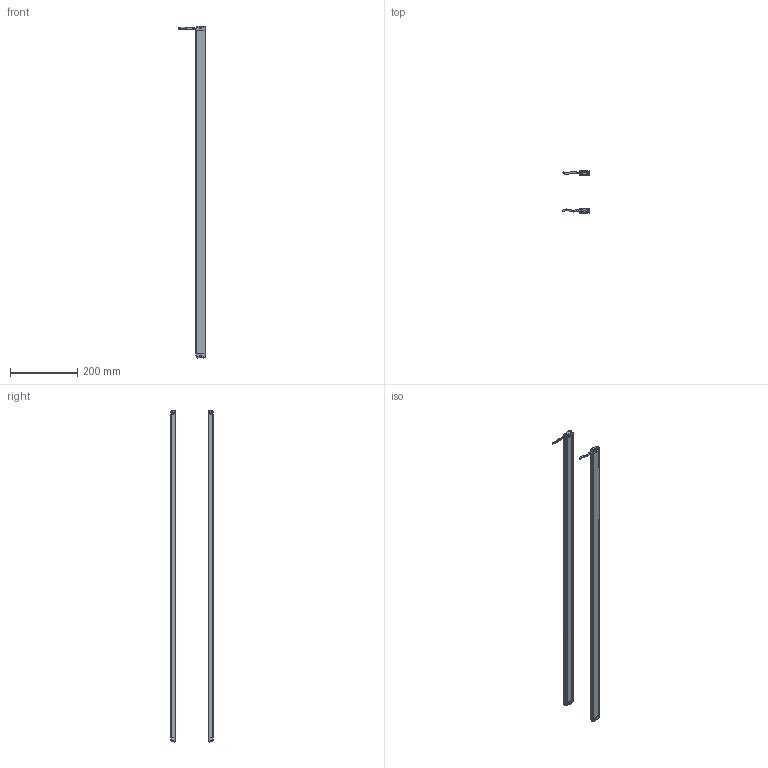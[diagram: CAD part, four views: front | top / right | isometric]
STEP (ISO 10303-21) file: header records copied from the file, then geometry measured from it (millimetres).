
FILE_DESCRIPTION(/* description */ (''),/* implementation_level */ '2;1');
FILE_NAME(/* name */ '2440（13x28w).stp',/* time_stamp */ '2020-07-14T20:13:31+08:00',/* author */ (''),/* organization */ (''),/* preprocessor_version */ 'ST-DEVELOPER v16',/* originating_system */ 'SIEMENS PLM Software NX 10.0',/* authorisation */ '');
FILE_SCHEMA (('AP203_CONFIGURATION_CONTROLLED_3D_DESIGN_OF_MECHANICAL_PARTS_AND_ASSEMBLIES_MIM_LF { 1 0 10303 403 2 1 2}'));
Length unit declared in the file: millimetre
Products named in the file (1): Admi58A03253m8cq
Bounding box: 79.6 x 125.02 x 986 mm (x, y, z)
Volume: 286258.3 mm3; surface area: 380554.6 mm2
Topology: 10 solids, 10 shells, 760 faces, 2150 edges, 1419 vertices
Faces by surface type: plane 356, cylinder 312, torus 52, bspline 40
Entity records: 28443 total; most frequent: CARTESIAN_POINT 8907, ORIENTED_EDGE 4300, DIRECTION 3785, EDGE_CURVE 2150, VERTEX_POINT 1419, AXIS2_PLACEMENT_3D 1285, LINE 1215, VECTOR 1215
